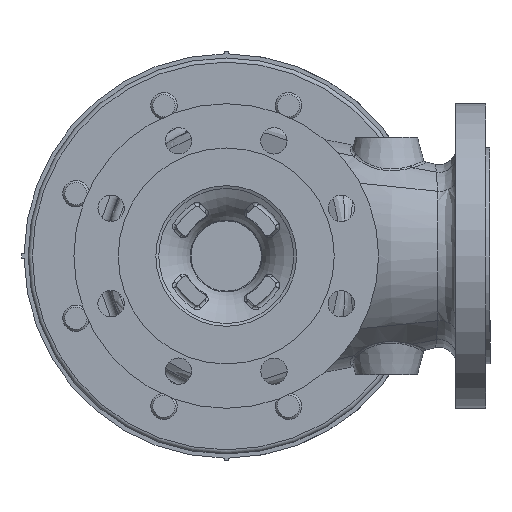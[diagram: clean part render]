
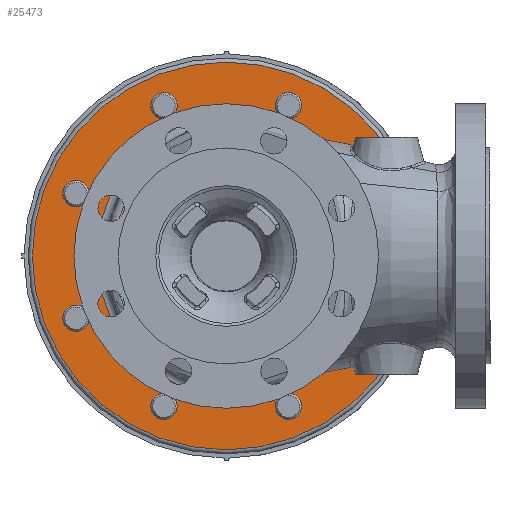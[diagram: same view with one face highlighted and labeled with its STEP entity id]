
A CAD part, front view. The second image highlights one B-rep face of the part: STEP entity #25473.
In plain terms, the highlighted planar face has unit normal (0, -1, 0).
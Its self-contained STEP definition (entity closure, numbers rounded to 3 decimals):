
#2406=LINE('',#35335,#3895);
#2407=LINE('',#35337,#3896);
#2408=LINE('',#35339,#3897);
#3895=VECTOR('',#29334,10.);
#3896=VECTOR('',#29335,10.);
#3897=VECTOR('',#29336,10.);
#5384=FACE_BOUND('',#7099,.T.);
#5385=FACE_BOUND('',#7100,.T.);
#5386=FACE_BOUND('',#7101,.T.);
#5387=FACE_BOUND('',#7102,.T.);
#5388=FACE_BOUND('',#7103,.T.);
#5389=FACE_BOUND('',#7104,.T.);
#5390=FACE_BOUND('',#7105,.T.);
#5391=FACE_BOUND('',#7106,.T.);
#5392=FACE_BOUND('',#7107,.T.);
#5543=FACE_OUTER_BOUND('',#7098,.T.);
#7098=EDGE_LOOP('',(#16576));
#7099=EDGE_LOOP('',(#16577));
#7100=EDGE_LOOP('',(#16578));
#7101=EDGE_LOOP('',(#16579));
#7102=EDGE_LOOP('',(#16580));
#7103=EDGE_LOOP('',(#16581));
#7104=EDGE_LOOP('',(#16582));
#7105=EDGE_LOOP('',(#16583));
#7106=EDGE_LOOP('',(#16584));
#7107=EDGE_LOOP('',(#16585,#16586,#16587,#16588,#16589,#16590,#16591,#16592));
#8812=CIRCLE('',#27052,140.);
#8813=CIRCLE('',#27053,9.525);
#8814=CIRCLE('',#27054,9.525);
#8815=CIRCLE('',#27055,9.525);
#8816=CIRCLE('',#27056,9.525);
#8817=CIRCLE('',#27057,9.525);
#8818=CIRCLE('',#27058,9.525);
#8819=CIRCLE('',#27059,9.525);
#8820=CIRCLE('',#27060,9.525);
#8821=CIRCLE('',#27061,103.18);
#8822=CIRCLE('',#27062,67.18);
#8823=CIRCLE('',#27063,160.18);
#8824=CIRCLE('',#27064,160.18);
#8825=CIRCLE('',#27065,67.18);
#9848=VERTEX_POINT('',#35309);
#9849=VERTEX_POINT('',#35311);
#9850=VERTEX_POINT('',#35313);
#9851=VERTEX_POINT('',#35315);
#9852=VERTEX_POINT('',#35317);
#9853=VERTEX_POINT('',#35319);
#9854=VERTEX_POINT('',#35321);
#9855=VERTEX_POINT('',#35323);
#9856=VERTEX_POINT('',#35325);
#9857=VERTEX_POINT('',#35327);
#9858=VERTEX_POINT('',#35328);
#9859=VERTEX_POINT('',#35330);
#9860=VERTEX_POINT('',#35332);
#9861=VERTEX_POINT('',#35334);
#9862=VERTEX_POINT('',#35336);
#9863=VERTEX_POINT('',#35338);
#9864=VERTEX_POINT('',#35340);
#12490=EDGE_CURVE('',#9848,#9848,#8812,.T.);
#12491=EDGE_CURVE('',#9849,#9849,#8813,.T.);
#12492=EDGE_CURVE('',#9850,#9850,#8814,.T.);
#12493=EDGE_CURVE('',#9851,#9851,#8815,.T.);
#12494=EDGE_CURVE('',#9852,#9852,#8816,.T.);
#12495=EDGE_CURVE('',#9853,#9853,#8817,.T.);
#12496=EDGE_CURVE('',#9854,#9854,#8818,.T.);
#12497=EDGE_CURVE('',#9855,#9855,#8819,.T.);
#12498=EDGE_CURVE('',#9856,#9856,#8820,.T.);
#12499=EDGE_CURVE('',#9857,#9858,#8821,.T.);
#12500=EDGE_CURVE('',#9859,#9857,#8822,.T.);
#12501=EDGE_CURVE('',#9860,#9859,#8823,.T.);
#12502=EDGE_CURVE('',#9861,#9860,#2406,.T.);
#12503=EDGE_CURVE('',#9862,#9861,#2407,.T.);
#12504=EDGE_CURVE('',#9863,#9862,#2408,.T.);
#12505=EDGE_CURVE('',#9864,#9863,#8824,.T.);
#12506=EDGE_CURVE('',#9858,#9864,#8825,.T.);
#16576=ORIENTED_EDGE('',*,*,#12490,.F.);
#16577=ORIENTED_EDGE('',*,*,#12491,.F.);
#16578=ORIENTED_EDGE('',*,*,#12492,.F.);
#16579=ORIENTED_EDGE('',*,*,#12493,.F.);
#16580=ORIENTED_EDGE('',*,*,#12494,.F.);
#16581=ORIENTED_EDGE('',*,*,#12495,.F.);
#16582=ORIENTED_EDGE('',*,*,#12496,.F.);
#16583=ORIENTED_EDGE('',*,*,#12497,.F.);
#16584=ORIENTED_EDGE('',*,*,#12498,.F.);
#16585=ORIENTED_EDGE('',*,*,#12499,.F.);
#16586=ORIENTED_EDGE('',*,*,#12500,.F.);
#16587=ORIENTED_EDGE('',*,*,#12501,.F.);
#16588=ORIENTED_EDGE('',*,*,#12502,.F.);
#16589=ORIENTED_EDGE('',*,*,#12503,.F.);
#16590=ORIENTED_EDGE('',*,*,#12504,.F.);
#16591=ORIENTED_EDGE('',*,*,#12505,.F.);
#16592=ORIENTED_EDGE('',*,*,#12506,.F.);
#24748=PLANE('',#27051);
#25473=ADVANCED_FACE('',(#5543,#5384,#5385,#5386,#5387,#5388,#5389,#5390,
#5391,#5392),#24748,.T.);
#27051=AXIS2_PLACEMENT_3D('',#35308,#29308,#29309);
#27052=AXIS2_PLACEMENT_3D('',#35310,#29310,#29311);
#27053=AXIS2_PLACEMENT_3D('',#35312,#29312,#29313);
#27054=AXIS2_PLACEMENT_3D('',#35314,#29314,#29315);
#27055=AXIS2_PLACEMENT_3D('',#35316,#29316,#29317);
#27056=AXIS2_PLACEMENT_3D('',#35318,#29318,#29319);
#27057=AXIS2_PLACEMENT_3D('',#35320,#29320,#29321);
#27058=AXIS2_PLACEMENT_3D('',#35322,#29322,#29323);
#27059=AXIS2_PLACEMENT_3D('',#35324,#29324,#29325);
#27060=AXIS2_PLACEMENT_3D('',#35326,#29326,#29327);
#27061=AXIS2_PLACEMENT_3D('',#35329,#29328,#29329);
#27062=AXIS2_PLACEMENT_3D('',#35331,#29330,#29331);
#27063=AXIS2_PLACEMENT_3D('',#35333,#29332,#29333);
#27064=AXIS2_PLACEMENT_3D('',#35341,#29337,#29338);
#27065=AXIS2_PLACEMENT_3D('',#35342,#29339,#29340);
#29308=DIRECTION('center_axis',(0.,-1.,0.));
#29309=DIRECTION('ref_axis',(1.,0.,0.));
#29310=DIRECTION('center_axis',(0.,1.,0.));
#29311=DIRECTION('ref_axis',(1.,0.,0.));
#29312=DIRECTION('center_axis',(0.,-1.,0.));
#29313=DIRECTION('ref_axis',(0.368,0.,-0.93));
#29314=DIRECTION('center_axis',(0.,-1.,0.));
#29315=DIRECTION('ref_axis',(0.918,0.,-0.398));
#29316=DIRECTION('center_axis',(0.,-1.,0.));
#29317=DIRECTION('ref_axis',(0.93,0.,0.368));
#29318=DIRECTION('center_axis',(0.,-1.,0.));
#29319=DIRECTION('ref_axis',(-0.368,0.,0.93));
#29320=DIRECTION('center_axis',(0.,-1.,0.));
#29321=DIRECTION('ref_axis',(-0.93,0.,-0.368));
#29322=DIRECTION('center_axis',(0.,-1.,0.));
#29323=DIRECTION('ref_axis',(-0.918,0.,0.398));
#29324=DIRECTION('center_axis',(0.,-1.,0.));
#29325=DIRECTION('ref_axis',(0.398,0.,0.918));
#29326=DIRECTION('center_axis',(0.,-1.,0.));
#29327=DIRECTION('ref_axis',(-0.398,0.,-0.918));
#29328=DIRECTION('center_axis',(0.,-1.,0.));
#29329=DIRECTION('ref_axis',(-1.,0.,0.));
#29330=DIRECTION('center_axis',(0.,-1.,0.));
#29331=DIRECTION('ref_axis',(0.724,0.,0.69));
#29332=DIRECTION('center_axis',(0.,-1.,0.));
#29333=DIRECTION('ref_axis',(1.,0.,0.));
#29334=DIRECTION('',(-1.,0.,0.));
#29335=DIRECTION('',(0.,0.,1.));
#29336=DIRECTION('',(1.,0.,0.));
#29337=DIRECTION('center_axis',(0.,-1.,0.));
#29338=DIRECTION('ref_axis',(1.,0.,0.));
#29339=DIRECTION('center_axis',(0.,-1.,0.));
#29340=DIRECTION('ref_axis',(0.724,0.,-0.69));
#35308=CARTESIAN_POINT('Origin',(0.,88.08,
0.));
#35309=CARTESIAN_POINT('',(140.,88.08,0.));
#35310=CARTESIAN_POINT('Origin',(0.,88.08,
0.));
#35311=CARTESIAN_POINT('',(41.455,88.08,-99.674));
#35312=CARTESIAN_POINT('Origin',(44.956,88.08,-108.533));
#35313=CARTESIAN_POINT('',(99.793,88.08,-41.168));
#35314=CARTESIAN_POINT('Origin',(108.533,88.08,-44.956));
#35315=CARTESIAN_POINT('',(99.674,88.08,41.455));
#35316=CARTESIAN_POINT('Origin',(108.533,88.08,44.956));
#35317=CARTESIAN_POINT('',(-41.455,88.08,99.674));
#35318=CARTESIAN_POINT('Origin',(-44.956,88.08,108.533));
#35319=CARTESIAN_POINT('',(-99.674,88.08,-41.455));
#35320=CARTESIAN_POINT('Origin',(-108.533,88.08,-44.956));
#35321=CARTESIAN_POINT('',(-99.793,88.08,41.168));
#35322=CARTESIAN_POINT('Origin',(-108.533,88.08,44.956));
#35323=CARTESIAN_POINT('',(41.168,88.08,99.793));
#35324=CARTESIAN_POINT('Origin',(44.956,88.08,108.533));
#35325=CARTESIAN_POINT('',(-41.168,88.08,-99.793));
#35326=CARTESIAN_POINT('Origin',(-44.956,88.08,-108.533));
#35327=CARTESIAN_POINT('',(50.936,88.08,94.582));
#35328=CARTESIAN_POINT('',(50.936,88.08,-94.582));
#35329=CARTESIAN_POINT('Origin',(9.7,88.08,0.));
#35330=CARTESIAN_POINT('',(86.896,88.08,56.838));
#35331=CARTESIAN_POINT('Origin',(24.087,88.08,33.));
#35332=CARTESIAN_POINT('',(97.184,88.08,6.59));
#35333=CARTESIAN_POINT('Origin',(-62.861,88.08,0.));
#35334=CARTESIAN_POINT('',(129.5,88.08,6.59));
#35335=CARTESIAN_POINT('',(54.574,88.08,6.59));
#35336=CARTESIAN_POINT('',(129.5,88.08,-6.59));
#35337=CARTESIAN_POINT('',(129.5,88.08,0.));
#35338=CARTESIAN_POINT('',(97.184,88.08,-6.59));
#35339=CARTESIAN_POINT('',(54.574,88.08,-6.59));
#35340=CARTESIAN_POINT('',(86.896,88.08,-56.838));
#35341=CARTESIAN_POINT('Origin',(-62.861,88.08,0.));
#35342=CARTESIAN_POINT('Origin',(24.087,88.08,-33.));
